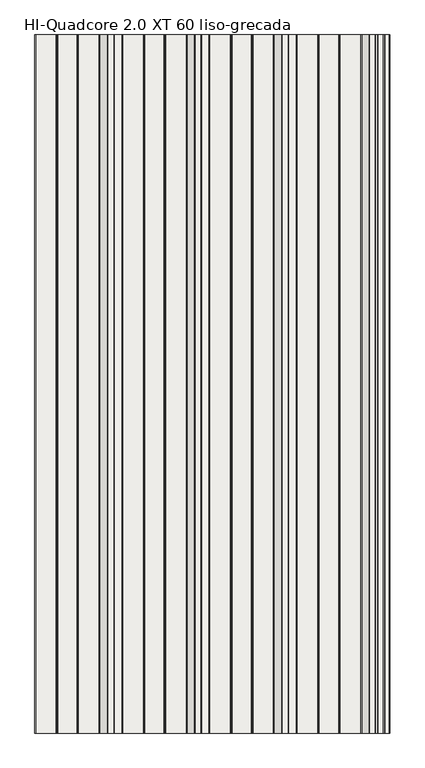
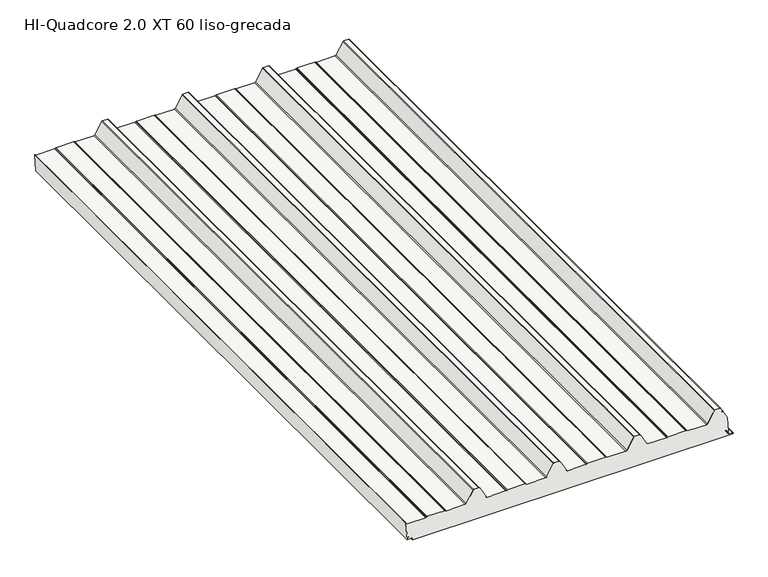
"""IFC4 building model written with IfcOpenShell, lengths in millimetres: slab geometry, HI_QuadCore2.0XT-XT DUAL : HI-Quadcore 2.0 XT 60 liso-grecada."""

import ifcopenshell
import ifcopenshell.guid

model = None  # the IFC model being written
_history = None  # IfcOwnerHistory: only IFC2X3 demands one
_inside = {}  # id of a spatial element -> (the spatial element, [elements in it])
_under = {}  # id of a project, library or spatial element -> (it, [spatial elements below it])
_declared = {}  # id of a project -> (the project, [libraries it declares])
_typed = {}  # id of a type object -> (the type object, [elements of that type])
_made_of = {}  # id of a material, layer set ... -> (it, [elements and type objects made of it])


def new_model(schema):
    """Start an empty IFC model of exactly this schema.

    Asked for "IFC4X3", IfcOpenShell would pick the latest addendum, in which some entities
    have other attributes; the version numbers below select the first issue.
    IFC2X3 requires an IfcOwnerHistory on every rooted entity: one is made here for all.
    """
    global model, _history
    if schema == "IFC4X3":
        model = ifcopenshell.file(schema_version=(4, 3, 0, 0))
    else:
        model = ifcopenshell.file(schema=schema)
    _inside.clear()
    _under.clear()
    _declared.clear()
    _typed.clear()
    _made_of.clear()
    _history = None
    if model.schema == "IFC2X3":
        org = make("IfcOrganization", Name="unknown")
        user = make(
            "IfcPersonAndOrganization",
            ThePerson=make("IfcPerson", FamilyName="unknown"),
            TheOrganization=org,
        )
        app = make(
            "IfcApplication",
            ApplicationDeveloper=org,
            Version="unknown",
            ApplicationFullName="unknown",
            ApplicationIdentifier="unknown",
        )
        _history = make(
            "IfcOwnerHistory",
            OwningUser=user,
            OwningApplication=app,
            ChangeAction="ADDED",
            CreationDate=0,
        )
    return model


def make(cls, **values):
    """One entity of the class cls with the attributes given. An attribute that is None is left unset."""
    return model.create_entity(
        cls, **{name: value for name, value in values.items() if value is not None}
    )


def rooted(cls, **values):
    """An entity with a GlobalId (a new one), such as an element, a storey or a relation."""
    return make(cls, GlobalId=ifcopenshell.guid.new(), OwnerHistory=_history, **values)


def si_unit(unit_type, name, prefix=None):
    """IfcSIUnit, for example si_unit("LENGTHUNIT", "METRE", prefix="MILLI")."""
    return make("IfcSIUnit", UnitType=unit_type, Prefix=prefix, Name=name)


def assignment(units):
    """IfcUnitAssignment: the units of a project."""
    return None if units is None else make("IfcUnitAssignment", Units=units)


def point(xyz):
    """IfcCartesianPoint."""
    return None if xyz is None else make("IfcCartesianPoint", Coordinates=xyz)


def direction(xyz):
    """IfcDirection."""
    return None if xyz is None else make("IfcDirection", DirectionRatios=xyz)


def frame(location, z_axis=None, x_axis=None):
    """IfcAxis2Placement3D, a coordinate frame: its origin and axes. An axis left out is left unset."""
    return make(
        "IfcAxis2Placement3D",
        Location=point(location),
        Axis=direction(z_axis),
        RefDirection=direction(x_axis),
    )


def frame_2d(location, x_axis=None):
    """IfcAxis2Placement2D, a coordinate frame in the plane: its origin and x axis."""
    return make(
        "IfcAxis2Placement2D", Location=point(location), RefDirection=direction(x_axis)
    )


def origin():
    """The frame at (0, 0, 0) with its axes left unset."""
    return frame((0.0, 0.0, 0.0))


def place(relative_to, where):
    """IfcLocalPlacement: puts the frame where relative to a parent placement (None: the world)."""
    return make(
        "IfcLocalPlacement", PlacementRelTo=relative_to, RelativePlacement=where
    )


def context(
    kind, dimensions, precision=None, world=None, true_north=None, identifier=None
):
    """IfcGeometricRepresentationContext, for example the 3D "Model" context."""
    return make(
        "IfcGeometricRepresentationContext",
        ContextIdentifier=identifier,
        ContextType=kind,
        CoordinateSpaceDimension=dimensions,
        Precision=precision,
        WorldCoordinateSystem=world,
        TrueNorth=true_north,
    )


def project(units=None, contexts=None):
    """IfcProject with its units and contexts."""
    return rooted(
        "IfcProject",
        Name="project",
        RepresentationContexts=contexts,
        UnitsInContext=assignment(units),
    )


def spatial(cls, under=None, at=None, **own):
    """A site, building, storey or space (cls), placed at a placement, below another one or the project."""
    s = rooted(cls, ObjectPlacement=at, **own)
    if under is not None:
        _under.setdefault(under.id(), (under, []))[1].append(s)
    return s


def polyline(points):
    """IfcPolyline through the points."""
    return make("IfcPolyline", Points=[point(p) for p in points])


def circle_curve(where, radius):
    """IfcCircle in the frame where."""
    return make("IfcCircle", Position=where, Radius=radius)


def trimmed(basis, trim1, trim2, sense, master):
    """IfcTrimmedCurve: the piece of a basis curve between two trims."""
    return make(
        "IfcTrimmedCurve",
        BasisCurve=basis,
        Trim1=trim1,
        Trim2=trim2,
        SenseAgreement=sense,
        MasterRepresentation=master,
    )


def segment(curve, same_sense, transition):
    """IfcCompositeCurveSegment."""
    return make(
        "IfcCompositeCurveSegment",
        Transition=transition,
        SameSense=same_sense,
        ParentCurve=curve,
    )


def composite_curve(segments, self_intersect=None):
    """IfcCompositeCurve: segments joined end to end."""
    return make("IfcCompositeCurve", Segments=segments, SelfIntersect=self_intersect)


def outline(outer, holes=None, kind="AREA"):
    """IfcArbitraryClosedProfileDef: a profile drawn as a closed curve; with holes, ...WithVoids."""
    if holes is None:
        return make("IfcArbitraryClosedProfileDef", ProfileType=kind, OuterCurve=outer)
    return make(
        "IfcArbitraryProfileDefWithVoids",
        ProfileType=kind,
        OuterCurve=outer,
        InnerCurves=holes,
    )


def extrude(swept, where, along, depth):
    """IfcExtrudedAreaSolid: the profile swept, set in the frame where, extruded along a direction by depth."""
    return make(
        "IfcExtrudedAreaSolid",
        SweptArea=swept,
        Position=where,
        ExtrudedDirection=direction(along),
        Depth=depth,
    )


def shape(context_of_items, identifier, shape_type, items):
    """IfcShapeRepresentation: the items that make up one representation, for example the "Body"."""
    return make(
        "IfcShapeRepresentation",
        ContextOfItems=context_of_items,
        RepresentationIdentifier=identifier,
        RepresentationType=shape_type,
        Items=items,
    )


def source(mapping_origin, context_of_items, identifier, shape_type, items):
    """IfcRepresentationMap: a shape defined once, which mapped items show again and again."""
    return make(
        "IfcRepresentationMap",
        MappingOrigin=mapping_origin,
        MappedRepresentation=shape(context_of_items, identifier, shape_type, items),
    )


def transform(
    local_origin,
    x_axis=None,
    y_axis=None,
    z_axis=None,
    scale=None,
    scale2=None,
    scale3=None,
    uniform=True,
):
    """IfcCartesianTransformationOperator3D, or its non-uniform kind. x_axis, y_axis, z_axis: its Axis1, 2, 3."""
    if uniform:
        return make(
            "IfcCartesianTransformationOperator3D",
            Axis1=direction(x_axis),
            Axis2=direction(y_axis),
            LocalOrigin=point(local_origin),
            Scale=scale,
            Axis3=direction(z_axis),
        )
    return make(
        "IfcCartesianTransformationOperator3DnonUniform",
        Axis1=direction(x_axis),
        Axis2=direction(y_axis),
        LocalOrigin=point(local_origin),
        Scale=scale,
        Axis3=direction(z_axis),
        Scale2=scale2,
        Scale3=scale3,
    )


def mapped(mapping_source, mapping_target):
    """IfcMappedItem: shows the shape of a source again, moved by a transform."""
    return make(
        "IfcMappedItem", MappingSource=mapping_source, MappingTarget=mapping_target
    )


def made_of(thing, what):
    """Note that an element or type object is made of a material, layer set ...; save() writes the relation."""
    if what is not None:
        _made_of.setdefault(what.id(), (what, []))[1].append(thing)
    return thing


def element(
    cls,
    number,
    at=None,
    inside=None,
    cuts=None,
    type_object=None,
    material=None,
    context=None,
    identifier="Body",
    shape_type=None,
    held_by="IfcProductDefinitionShape",
    body=None,
    shapes=None,
    **own,
):
    """One element of the class cls, such as IfcWall. Its Tag is "e" and its number.

    at: its placement. inside: the storey or other place that contains it. cuts: it is an
    opening in that element (IfcRelVoidsElement). A single representation is given by context,
    identifier, shape_type and body (its items); several are given by shapes. held_by: the class
    of the entity that holds the representations. save() writes the other relations.
    """
    e = rooted(cls, Tag="e%d" % number, ObjectPlacement=at, **own)
    if body is not None:
        shapes = [shape(context, identifier, shape_type, body)]
    if shapes is not None:
        e.Representation = make(held_by, Representations=shapes)
    if inside is not None:
        _inside.setdefault(inside.id(), (inside, []))[1].append(e)
    if cuts is not None:
        rooted(
            "IfcRelVoidsElement", RelatingBuildingElement=cuts, RelatedOpeningElement=e
        )
    if type_object is not None:
        _typed.setdefault(type_object.id(), (type_object, []))[1].append(e)
    return made_of(e, material)


def aggregate(whole, parts):
    """IfcRelAggregates: a whole, such as a stair, and the parts it consists of."""
    return rooted("IfcRelAggregates", RelatingObject=whole, RelatedObjects=parts)


def save(model, path):
    """Write the relations noted so far, then the file.

    IfcRelAggregates (storeys below a building ...), IfcRelContainedInSpatialStructure (elements
    in a storey), IfcRelDefinesByType, IfcRelAssociatesMaterial and IfcRelDeclares: one each for
    every whole, place, type object, material and project.
    """
    for whole, parts in _under.values():
        aggregate(whole, parts)
    for where, things in _inside.values():
        rooted(
            "IfcRelContainedInSpatialStructure",
            RelatedElements=things,
            RelatingStructure=where,
        )
    for kind, things in _typed.values():
        rooted("IfcRelDefinesByType", RelatedObjects=things, RelatingType=kind)
    for what, things in _made_of.values():
        rooted("IfcRelAssociatesMaterial", RelatedObjects=things, RelatingMaterial=what)
    for by, libraries in _declared.values():
        rooted("IfcRelDeclares", RelatingContext=by, RelatedDefinitions=libraries)
    model.write(path)


def hi_quadcore_2_0_xt_60_liso_grecada_21506734(model_context):
    return source(origin(), model_context, "Body", "SweptSolid", [
        extrude(outline(composite_curve([segment(polyline([(61.2667387, 1181.036551), (87.9197266, 1166.0442453)]), True, "CONTINUOUS"), segment(trimmed(circle_curve(frame_2d((86.9392041, 1164.3010942)), 2.0), [point((87.9197266, 1166.0442453))], [point((85.939301, 1166.033201))], True, "CARTESIAN"), True, "CONTINUOUS"), segment(polyline([(85.939301, 1166.033201), (84.3282068, 1165.1031555), (84.7281681, 1164.4103128), (86.3392623, 1165.3403583)]), True, "CONTINUOUS"), segment(trimmed(circle_curve(frame_2d((86.9392041, 1164.3010942)), 1.2), [point((86.3392623, 1165.3403583))], [point((87.5275176, 1165.3469849))], False, "CARTESIAN"), True, "CONTINUOUS"), segment(polyline([(87.5275176, 1165.3469849), (98.0785747, 1159.4120152)]), True, "CONTINUOUS"), segment(trimmed(circle_curve(frame_2d((97.0, 1157.4945491)), 2.2), [point((98.0785747, 1159.4120152))], [point((99.2, 1157.4945491))], False, "CARTESIAN"), True, "CONTINUOUS"), segment(polyline([(99.2, 1157.4945491), (99.2, 1142.1184247)]), True, "CONTINUOUS"), segment(trimmed(circle_curve(frame_2d((97.0, 1142.1184247)), 2.2), [point((99.2, 1142.1184247))], [point((98.0662182, 1140.1940602))], False, "CARTESIAN"), True, "CONTINUOUS"), segment(polyline([(98.0662182, 1140.1940602), (61.1583504, 1119.7447946)]), True, "CONTINUOUS"), segment(trimmed(circle_curve(frame_2d((63.0, 1116.4208923)), 3.8), [point((61.1583504, 1119.7447946))], [point((59.2, 1116.4208923))], True, "CARTESIAN"), True, "CONTINUOUS"), segment(polyline([(59.2, 1116.4208923), (59.2, 1057.5510443)]), True, "CONTINUOUS"), segment(trimmed(circle_curve(frame_2d((63.0, 1057.5510443)), 3.8), [point((59.2, 1057.5510443))], [point((59.6973596, 1055.671532))], True, "CARTESIAN"), True, "CONTINUOUS"), segment(polyline([(59.6973596, 1055.671532), (60.912055, 1053.5370944)]), True, "CONTINUOUS"), segment(trimmed(circle_curve(frame_2d((59.0, 1052.4489557)), 2.2), [point((60.912055, 1053.5370944))], [point((61.2, 1052.4489557))], False, "CARTESIAN"), True, "CONTINUOUS"), segment(polyline([(61.2, 1052.4489557), (61.2, 997.5510443)]), True, "CONTINUOUS"), segment(trimmed(circle_curve(frame_2d((59.0, 997.5510443)), 2.2), [point((61.2, 997.5510443))], [point((60.912055, 996.4629056))], False, "CARTESIAN"), True, "CONTINUOUS"), segment(polyline([(60.912055, 996.4629056), (59.6973596, 994.328468)]), True, "CONTINUOUS"), segment(trimmed(circle_curve(frame_2d((63.0, 992.4489557)), 3.8), [point((59.6973596, 994.328468))], [point((59.2, 992.4489557))], True, "CARTESIAN"), True, "CONTINUOUS"), segment(polyline([(59.2, 992.4489557), (59.2, 934.2545425)]), True, "CONTINUOUS"), segment(trimmed(circle_curve(frame_2d((63.0, 934.2545425)), 3.8), [point((59.2, 934.2545425))], [point((61.1370073, 930.9425554))], True, "CARTESIAN"), True, "CONTINUOUS"), segment(polyline([(61.1370073, 930.9425554), (98.0785747, 910.1629237)]), True, "CONTINUOUS"), segment(trimmed(circle_curve(frame_2d((97.0, 908.2454575)), 2.2), [point((98.0785747, 910.1629237))], [point((99.2, 908.2454575))], False, "CARTESIAN"), True, "CONTINUOUS"), segment(polyline([(99.2, 908.2454575), (99.2, 891.7545425)]), True, "CONTINUOUS"), segment(trimmed(circle_curve(frame_2d((97.0, 891.7545425)), 2.2), [point((99.2, 891.7545425))], [point((98.0785747, 889.8370763))], False, "CARTESIAN"), True, "CONTINUOUS"), segment(polyline([(98.0785747, 889.8370763), (61.1370073, 869.0574446)]), True, "CONTINUOUS"), segment(trimmed(circle_curve(frame_2d((63.0, 865.7454575)), 3.8), [point((61.1370073, 869.0574446))], [point((59.2, 865.7454575))], True, "CARTESIAN"), True, "CONTINUOUS"), segment(polyline([(59.2, 865.7454575), (59.2, 807.5510443)]), True, "CONTINUOUS"), segment(trimmed(circle_curve(frame_2d((63.0, 807.5510443)), 3.8), [point((59.2, 807.5510443))], [point((59.6973596, 805.671532))], True, "CARTESIAN"), True, "CONTINUOUS"), segment(polyline([(59.6973596, 805.671532), (60.912055, 803.5370944)]), True, "CONTINUOUS"), segment(trimmed(circle_curve(frame_2d((59.0, 802.4489557)), 2.2), [point((60.912055, 803.5370944))], [point((61.2, 802.4489557))], False, "CARTESIAN"), True, "CONTINUOUS"), segment(polyline([(61.2, 802.4489557), (61.2, 747.5510443)]), True, "CONTINUOUS"), segment(trimmed(circle_curve(frame_2d((59.0, 747.5510443)), 2.2), [point((61.2, 747.5510443))], [point((60.912055, 746.4629056))], False, "CARTESIAN"), True, "CONTINUOUS"), segment(polyline([(60.912055, 746.4629056), (59.6973596, 744.328468)]), True, "CONTINUOUS"), segment(trimmed(circle_curve(frame_2d((63.0, 742.4489557)), 3.8), [point((59.6973596, 744.328468))], [point((59.2, 742.4489557))], True, "CARTESIAN"), True, "CONTINUOUS"), segment(polyline([(59.2, 742.4489557), (59.2, 684.2545425)]), True, "CONTINUOUS"), segment(trimmed(circle_curve(frame_2d((63.0, 684.2545425)), 3.8), [point((59.2, 684.2545425))], [point((61.1370073, 680.9425554))], True, "CARTESIAN"), True, "CONTINUOUS"), segment(polyline([(61.1370073, 680.9425554), (98.0785747, 660.1629237)]), True, "CONTINUOUS"), segment(trimmed(circle_curve(frame_2d((97.0, 658.2454575)), 2.2), [point((98.0785747, 660.1629237))], [point((99.2, 658.2454575))], False, "CARTESIAN"), True, "CONTINUOUS"), segment(polyline([(99.2, 658.2454575), (99.2, 641.7545425)]), True, "CONTINUOUS"), segment(trimmed(circle_curve(frame_2d((97.0, 641.7545425)), 2.2), [point((99.2, 641.7545425))], [point((98.0785747, 639.8370763))], False, "CARTESIAN"), True, "CONTINUOUS"), segment(polyline([(98.0785747, 639.8370763), (61.1370073, 619.0574446)]), True, "CONTINUOUS"), segment(trimmed(circle_curve(frame_2d((63.0, 615.7454575)), 3.8), [point((61.1370073, 619.0574446))], [point((59.2, 615.7454575))], True, "CARTESIAN"), True, "CONTINUOUS"), segment(polyline([(59.2, 615.7454575), (59.2, 557.5510443)]), True, "CONTINUOUS"), segment(trimmed(circle_curve(frame_2d((63.0, 557.5510443)), 3.8), [point((59.2, 557.5510443))], [point((59.6973596, 555.671532))], True, "CARTESIAN"), True, "CONTINUOUS"), segment(polyline([(59.6973596, 555.671532), (60.912055, 553.5370944)]), True, "CONTINUOUS"), segment(trimmed(circle_curve(frame_2d((59.0, 552.4489557)), 2.2), [point((60.912055, 553.5370944))], [point((61.2, 552.4489557))], False, "CARTESIAN"), True, "CONTINUOUS"), segment(polyline([(61.2, 552.4489557), (61.2, 497.5510443)]), True, "CONTINUOUS"), segment(trimmed(circle_curve(frame_2d((59.0, 497.5510443)), 2.2), [point((61.2, 497.5510443))], [point((60.912055, 496.4629056))], False, "CARTESIAN"), True, "CONTINUOUS"), segment(polyline([(60.912055, 496.4629056), (59.6973596, 494.328468)]), True, "CONTINUOUS"), segment(trimmed(circle_curve(frame_2d((63.0, 492.4489557)), 3.8), [point((59.6973596, 494.328468))], [point((59.2, 492.4489557))], True, "CARTESIAN"), True, "CONTINUOUS"), segment(polyline([(59.2, 492.4489557), (59.2, 434.2545425)]), True, "CONTINUOUS"), segment(trimmed(circle_curve(frame_2d((63.0, 434.2545425)), 3.8), [point((59.2, 434.2545425))], [point((61.1370073, 430.9425554))], True, "CARTESIAN"), True, "CONTINUOUS"), segment(polyline([(61.1370073, 430.9425554), (98.0785747, 410.1629237)]), True, "CONTINUOUS"), segment(trimmed(circle_curve(frame_2d((97.0, 408.2454575)), 2.2), [point((98.0785747, 410.1629237))], [point((99.2, 408.2454575))], False, "CARTESIAN"), True, "CONTINUOUS"), segment(polyline([(99.2, 408.2454575), (99.2, 391.7545425)]), True, "CONTINUOUS"), segment(trimmed(circle_curve(frame_2d((97.0, 391.7545425)), 2.2), [point((99.2, 391.7545425))], [point((98.0785747, 389.8370763))], False, "CARTESIAN"), True, "CONTINUOUS"), segment(polyline([(98.0785747, 389.8370763), (61.1370073, 369.0574446)]), True, "CONTINUOUS"), segment(trimmed(circle_curve(frame_2d((63.0, 365.7454575)), 3.8), [point((61.1370073, 369.0574446))], [point((59.2, 365.7454575))], True, "CARTESIAN"), True, "CONTINUOUS"), segment(polyline([(59.2, 365.7454575), (59.2, 307.5510443)]), True, "CONTINUOUS"), segment(trimmed(circle_curve(frame_2d((63.0, 307.5510443)), 3.8), [point((59.2, 307.5510443))], [point((59.6973596, 305.671532))], True, "CARTESIAN"), True, "CONTINUOUS"), segment(polyline([(59.6973596, 305.671532), (60.912055, 303.5370944)]), True, "CONTINUOUS"), segment(trimmed(circle_curve(frame_2d((59.0, 302.4489557)), 2.2), [point((60.912055, 303.5370944))], [point((61.2, 302.4489557))], False, "CARTESIAN"), True, "CONTINUOUS"), segment(polyline([(61.2, 302.4489557), (61.2, 247.5510443)]), True, "CONTINUOUS"), segment(trimmed(circle_curve(frame_2d((59.0, 247.5510443)), 2.2), [point((61.2, 247.5510443))], [point((60.912055, 246.4629056))], False, "CARTESIAN"), True, "CONTINUOUS"), segment(polyline([(60.912055, 246.4629056), (59.6973596, 244.328468)]), True, "CONTINUOUS"), segment(trimmed(circle_curve(frame_2d((63.0, 242.4489557)), 3.8), [point((59.6973596, 244.328468))], [point((59.2, 242.4489557))], True, "CARTESIAN"), True, "CONTINUOUS"), segment(polyline([(59.2, 242.4489557), (59.2, 184.6545425)]), True, "CONTINUOUS"), segment(trimmed(circle_curve(frame_2d((63.0, 184.6545425)), 3.8), [point((59.2, 184.6545425))], [point((61.2048889, 181.3052775))], True, "CARTESIAN"), True, "CONTINUOUS"), segment(polyline([(61.2048889, 181.3052775), (7.0308356, 184.4622222), (7.2414508, 185.8457731), (11.9758654, 185.8456417)]), True, "CONTINUOUS"), segment(trimmed(circle_curve(frame_2d((11.9759204, 187.8456417)), 1.9999999), [point((11.9758654, 185.8456417))], [point((13.3900949, 186.4313891))], True, "CARTESIAN"), True, "CONTINUOUS"), segment(polyline([(13.3900949, 186.4313891), (15.4963556, 188.5375329), (14.9306702, 189.1032183), (12.8244255, 186.99709)]), True, "CONTINUOUS"), segment(trimmed(circle_curve(frame_2d((11.9759204, 187.8456417)), 1.2000003), [point((12.8244255, 186.99709))], [point((11.9771122, 186.645642))], False, "CARTESIAN"), True, "CONTINUOUS"), segment(polyline([(11.9771122, 186.645642), (8.3337062, 186.6457428)]), True, "CONTINUOUS"), segment(trimmed(circle_curve(frame_2d((8.3337394, 187.8457428)), 1.2), [point((8.3337062, 186.6457428))], [point((7.1369439, 187.7581044))], False, "CARTESIAN"), True, "CONTINUOUS"), segment(polyline([(7.1369439, 187.7581044), (6.3740035, 198.1768616)]), True, "CONTINUOUS"), segment(trimmed(circle_curve(frame_2d((3.5874027, 197.9032632)), 2.8), [point((6.3740035, 198.1768616))], [point((3.5874804, 200.7032632))], True, "CARTESIAN"), True, "CONTINUOUS"), segment(polyline([(3.5874804, 200.7032632), (1.9756233, 200.7033079)]), True, "CONTINUOUS"), segment(trimmed(circle_curve(frame_2d((1.9756562, 201.9033076)), 1.1999997), [point((1.9756233, 200.7033079))], [point((0.7756565, 201.9033408))], False, "CARTESIAN"), True, "CONTINUOUS"), segment(polyline([(0.7756565, 201.9033408), (0.8032689, 1197.9136557)]), True, "CONTINUOUS"), segment(trimmed(circle_curve(frame_2d((2.0032353, 1197.9046782)), 1.2), [point((0.8032689, 1197.9136557))], [point((2.0032686, 1199.1046782))], False, "CARTESIAN"), True, "CONTINUOUS"), segment(polyline([(2.0032686, 1199.1046782), (2.9118044, 1199.104653)]), True, "CONTINUOUS"), segment(trimmed(circle_curve(frame_2d((2.9117711, 1197.9046533)), 1.1999997), [point((2.9118044, 1199.104653))], [point((4.1105786, 1197.9581323))], False, "CARTESIAN"), True, "CONTINUOUS"), segment(polyline([(4.1105786, 1197.9581323), (5.0061949, 1186.1323972)]), True, "CONTINUOUS"), segment(trimmed(circle_curve(frame_2d((7.7981993, 1186.3438482)), 2.8), [point((5.0061949, 1186.1323972))], [point((7.7981217, 1183.5438482))], True, "CARTESIAN"), True, "CONTINUOUS"), segment(polyline([(7.7981217, 1183.5438482), (11.7460458, 1183.5455151)]), True, "CONTINUOUS"), segment(trimmed(circle_curve(frame_2d((11.7411592, 1182.3429645)), 1.2025605), [point((11.7460458, 1183.5455151))], [point((12.5937174, 1183.1910778))], False, "CARTESIAN"), True, "CONTINUOUS"), segment(polyline([(12.5937174, 1183.1910778), (14.0134457, 1181.7779905), (14.5791311, 1182.3436759), (13.1649724, 1183.757913), (61.2667387, 1181.036551)]), True, "CONTINUOUS")], self_intersect=False)), frame((0.0, 0.0, 0.0), z_axis=(0.0, 1.0, 0.0), x_axis=(0.0, 0.0, 1.0)), (0.0, 0.0, 1.0), 2000.0),
    ])


if __name__ == "__main__":
    model = new_model("IFC4")
    model_context = context("Model", 3, world=origin())
    ifc_project = project(units=[si_unit("LENGTHUNIT", "METRE", prefix="MILLI")], contexts=[model_context])
    site = spatial("IfcSite", under=ifc_project)
    building = spatial("IfcBuilding", under=site)
    placement = place(None, origin())
    hi_quadcore_2_0_xt_60_liso_grecada_shape = hi_quadcore_2_0_xt_60_liso_grecada_21506734(model_context)
    element("IfcSlab", 1, ObjectType="HI_QuadCore2.0XT-XT DUAL : HI-Quadcore 2.0 XT 60 liso-grecada", at=placement, inside=building, context=model_context, shape_type="MappedRepresentation", body=[
        mapped(hi_quadcore_2_0_xt_60_liso_grecada_shape, transform((0.0, 0.0, 0.0), x_axis=(1.0, 0.0, 0.0), y_axis=(0.0, 1.0, 0.0), z_axis=(0.0, 0.0, 1.0))),
    ])
    save(model, "model.ifc")
